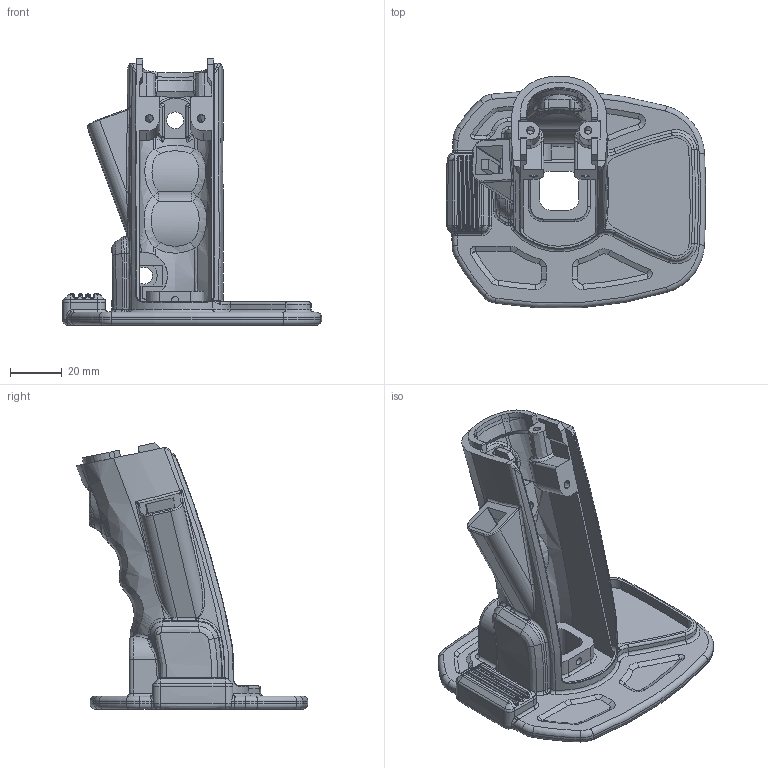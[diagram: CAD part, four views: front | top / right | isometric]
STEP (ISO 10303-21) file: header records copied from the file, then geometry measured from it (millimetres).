
FILE_DESCRIPTION(/* description */ (''),/* implementation_level */ '2;1');
FILE_NAME(/* name */ 'LAST_Grip 04.stp',/* time_stamp */ '2025-11-19T23:09:27+09:00',/* author */ (''),/* organization */ (''),/* preprocessor_version */ 'ST-DEVELOPER v11',/* originating_system */ 'SIEMENS PLM Software NX 7.5',/* authorisation */ '');
FILE_SCHEMA (('CONFIG_CONTROL_DESIGN'));
Length unit declared in the file: millimetre
Products named in the file (1): gyun8741ysf2
Bounding box: 99.99 x 89.34 x 102.72 mm (x, y, z)
Volume: 83987.1 mm3; surface area: 42701.9 mm2
Topology: 1 solids, 2 shells, 697 faces, 1703 edges, 1007 vertices
Faces by surface type: bspline 304, plane 141, cylinder 124, torus 60, cone 37, extrusion 16, sphere 15
Full cylindrical faces by diameter (mm): 2.9 x1, 6.5 x2
Entity records: 28330 total; most frequent: CARTESIAN_POINT 14155, ORIENTED_EDGE 3366, DIRECTION 2337, EDGE_CURVE 1683, VERTEX_POINT 1004, AXIS2_PLACEMENT_3D 930, EDGE_LOOP 721, ADVANCED_FACE 697
